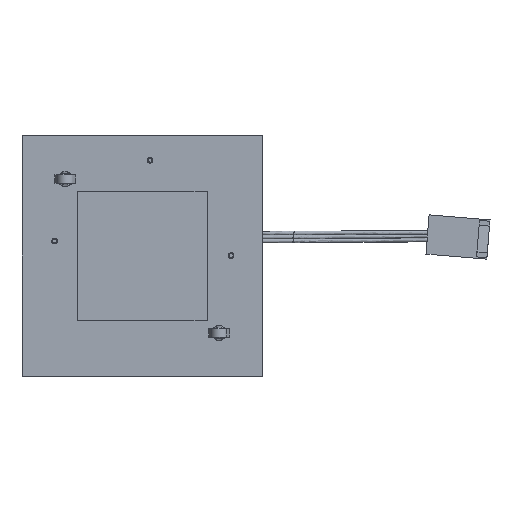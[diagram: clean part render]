
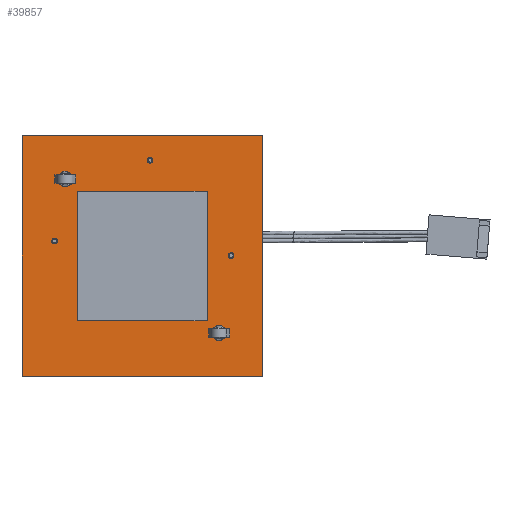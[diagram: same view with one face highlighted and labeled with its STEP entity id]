
A CAD part, front view. The second image highlights one B-rep face of the part: STEP entity #39857.
In plain terms, the highlighted planar face has unit normal (0, -1, 0).
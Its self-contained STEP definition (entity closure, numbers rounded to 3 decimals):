
#1068 = AXIS2_PLACEMENT_3D ( 'NONE', #18120, #22536, #34164 ) ;
#1313 = EDGE_CURVE ( 'NONE', #34698, #24332, #51912, .T. ) ;
#1512 = AXIS2_PLACEMENT_3D ( 'NONE', #43567, #5924, #19203 ) ;
#1811 = AXIS2_PLACEMENT_3D ( 'NONE', #18225, #35088, #5502 ) ;
#1817 = DIRECTION ( 'NONE',  ( 0., 1., 0. ) ) ;
#1867 = VECTOR ( 'NONE', #45388, 1000. ) ;
#2196 = CARTESIAN_POINT ( 'NONE',  ( 25., 0., 25. ) ) ;
#2211 = FACE_BOUND ( 'NONE', #41821, .T. ) ;
#2367 = EDGE_CURVE ( 'NONE', #51442, #11473, #48535, .T. ) ;
#3084 = ORIENTED_EDGE ( 'NONE', *, *, #51517, .T. ) ;
#3251 = VERTEX_POINT ( 'NONE', #7432 ) ;
#4304 = CIRCLE ( 'NONE', #6967, 1.6 ) ;
#4383 = AXIS2_PLACEMENT_3D ( 'NONE', #9590, #8755, #50861 ) ;
#4895 = ORIENTED_EDGE ( 'NONE', *, *, #14249, .T. ) ;
#4954 = DIRECTION ( 'NONE',  ( 0., 1., 0. ) ) ;
#4962 = CARTESIAN_POINT ( 'NONE',  ( -18.236, 0., 3.115 ) ) ;
#5502 = DIRECTION ( 'NONE',  ( 0., 0., -1. ) ) ;
#5567 = FACE_BOUND ( 'NONE', #32090, .T. ) ;
#5835 = DIRECTION ( 'NONE',  ( 1., 0., 0. ) ) ;
#5924 = DIRECTION ( 'NONE',  ( 0., 1., 0. ) ) ;
#6039 = VERTEX_POINT ( 'NONE', #36109 ) ;
#6676 = EDGE_LOOP ( 'NONE', ( #31321, #23872 ) ) ;
#6763 = CARTESIAN_POINT ( 'NONE',  ( 1.639, 0., 19.933 ) ) ;
#6857 = CARTESIAN_POINT ( 'NONE',  ( 16., 0., -16. ) ) ;
#6967 = AXIS2_PLACEMENT_3D ( 'NONE', #35853, #1817, #30621 ) ;
#7347 = CARTESIAN_POINT ( 'NONE',  ( 18.5, 0., 0.094 ) ) ;
#7432 = CARTESIAN_POINT ( 'NONE',  ( 18.5, 0., -0.506 ) ) ;
#8721 = EDGE_CURVE ( 'NONE', #3251, #51970, #38606, .T. ) ;
#8755 = DIRECTION ( 'NONE',  ( 0., 1., 0. ) ) ;
#9590 = CARTESIAN_POINT ( 'NONE',  ( 16., 0., -16. ) ) ;
#9696 = FACE_BOUND ( 'NONE', #51518, .T. ) ;
#11473 = VERTEX_POINT ( 'NONE', #30646 ) ;
#12126 = DIRECTION ( 'NONE',  ( 0., 1., 0. ) ) ;
#12584 = CARTESIAN_POINT ( 'NONE',  ( 25., 0., -25. ) ) ;
#12823 = CARTESIAN_POINT ( 'NONE',  ( 1.639, 0., 20.533 ) ) ;
#14095 = CARTESIAN_POINT ( 'NONE',  ( -16., 0., 14.4 ) ) ;
#14249 = EDGE_CURVE ( 'NONE', #33403, #29986, #21758, .T. ) ;
#14342 = CIRCLE ( 'NONE', #1068, 0.6 ) ;
#14766 = EDGE_CURVE ( 'NONE', #39170, #6039, #21902, .T. ) ;
#14943 = FACE_OUTER_BOUND ( 'NONE', #16463, .T. ) ;
#15432 = CARTESIAN_POINT ( 'NONE',  ( -18.236, 0., 3.115 ) ) ;
#15628 = AXIS2_PLACEMENT_3D ( 'NONE', #7347, #48879, #19544 ) ;
#16328 = DIRECTION ( 'NONE',  ( 0., 0., -1. ) ) ;
#16397 = CARTESIAN_POINT ( 'NONE',  ( -25., 0., 25. ) ) ;
#16463 = EDGE_LOOP ( 'NONE', ( #48413, #45876, #41210, #38397 ) ) ;
#16632 = EDGE_CURVE ( 'NONE', #6039, #47466, #18822, .T. ) ;
#16731 = CIRCLE ( 'NONE', #44987, 0.6 ) ;
#18120 = CARTESIAN_POINT ( 'NONE',  ( 18.5, 0., 0.094 ) ) ;
#18163 = ORIENTED_EDGE ( 'NONE', *, *, #2367, .T. ) ;
#18225 = CARTESIAN_POINT ( 'NONE',  ( 1.639, 0., 19.933 ) ) ;
#18822 = LINE ( 'NONE', #2196, #37699 ) ;
#19203 = DIRECTION ( 'NONE',  ( 0., 0., -1. ) ) ;
#19544 = DIRECTION ( 'NONE',  ( 0., 0., -1. ) ) ;
#19661 = LINE ( 'NONE', #32637, #1867 ) ;
#20800 = DIRECTION ( 'NONE',  ( 0., 0., 1. ) ) ;
#21758 = CIRCLE ( 'NONE', #42026, 0.6 ) ;
#21902 = LINE ( 'NONE', #47342, #44688 ) ;
#22444 = PLANE ( 'NONE',  #34461 ) ;
#22536 = DIRECTION ( 'NONE',  ( 0., 1., 0. ) ) ;
#22917 = EDGE_CURVE ( 'NONE', #29986, #33403, #16731, .T. ) ;
#22967 = FACE_BOUND ( 'NONE', #6676, .T. ) ;
#23024 = CIRCLE ( 'NONE', #1811, 0.6 ) ;
#23285 = EDGE_CURVE ( 'NONE', #24332, #34698, #4304, .T. ) ;
#23872 = ORIENTED_EDGE ( 'NONE', *, *, #23285, .T. ) ;
#24185 = EDGE_LOOP ( 'NONE', ( #4895, #46210 ) ) ;
#24332 = VERTEX_POINT ( 'NONE', #53854 ) ;
#24591 = CARTESIAN_POINT ( 'NONE',  ( -25., 0., 25. ) ) ;
#24644 = ORIENTED_EDGE ( 'NONE', *, *, #47219, .T. ) ;
#25796 = CIRCLE ( 'NONE', #46101, 0.6 ) ;
#27875 = CARTESIAN_POINT ( 'NONE',  ( 18.5, 0., 0.694 ) ) ;
#28239 = CIRCLE ( 'NONE', #4383, 1.6 ) ;
#28817 = ORIENTED_EDGE ( 'NONE', *, *, #44734, .T. ) ;
#28915 = CARTESIAN_POINT ( 'NONE',  ( -18.236, 0., 3.715 ) ) ;
#29236 = DIRECTION ( 'NONE',  ( 0., 0., -1. ) ) ;
#29986 = VERTEX_POINT ( 'NONE', #28915 ) ;
#30621 = DIRECTION ( 'NONE',  ( 0., 0., -1. ) ) ;
#30646 = CARTESIAN_POINT ( 'NONE',  ( 16., 0., -14.4 ) ) ;
#30996 = VECTOR ( 'NONE', #20800, 1000. ) ;
#31321 = ORIENTED_EDGE ( 'NONE', *, *, #1313, .T. ) ;
#32090 = EDGE_LOOP ( 'NONE', ( #24644, #3084 ) ) ;
#32307 = DIRECTION ( 'NONE',  ( 0., 1., 0. ) ) ;
#32637 = CARTESIAN_POINT ( 'NONE',  ( -25., 0., -25. ) ) ;
#32773 = EDGE_CURVE ( 'NONE', #11473, #51442, #28239, .T. ) ;
#33403 = VERTEX_POINT ( 'NONE', #50460 ) ;
#33525 = ORIENTED_EDGE ( 'NONE', *, *, #8721, .T. ) ;
#34164 = DIRECTION ( 'NONE',  ( 0., 0., -1. ) ) ;
#34461 = AXIS2_PLACEMENT_3D ( 'NONE', #48980, #36249, #16328 ) ;
#34698 = VERTEX_POINT ( 'NONE', #14095 ) ;
#34870 = DIRECTION ( 'NONE',  ( 0., 0., -1. ) ) ;
#35088 = DIRECTION ( 'NONE',  ( 0., 1., 0. ) ) ;
#35853 = CARTESIAN_POINT ( 'NONE',  ( -16., 0., 16. ) ) ;
#36109 = CARTESIAN_POINT ( 'NONE',  ( 25., 0., 25. ) ) ;
#36212 = DIRECTION ( 'NONE',  ( 0., 0., -1. ) ) ;
#36249 = DIRECTION ( 'NONE',  ( 0., -1., 0. ) ) ;
#37045 = AXIS2_PLACEMENT_3D ( 'NONE', #6857, #12126, #36212 ) ;
#37548 = CARTESIAN_POINT ( 'NONE',  ( -25., 0., -25. ) ) ;
#37699 = VECTOR ( 'NONE', #34870, 1000. ) ;
#37876 = DIRECTION ( 'NONE',  ( 0., 1., 0. ) ) ;
#38156 = DIRECTION ( 'NONE',  ( 0., 0., -1. ) ) ;
#38234 = VERTEX_POINT ( 'NONE', #12823 ) ;
#38397 = ORIENTED_EDGE ( 'NONE', *, *, #41277, .F. ) ;
#38606 = CIRCLE ( 'NONE', #15628, 0.6 ) ;
#38690 = DIRECTION ( 'NONE',  ( 0., 0., -1. ) ) ;
#39170 = VERTEX_POINT ( 'NONE', #24591 ) ;
#39857 = ADVANCED_FACE ( 'NONE', ( #22967, #9696, #5567, #44280, #2211, #14943 ), #22444, .T. ) ;
#40481 = VERTEX_POINT ( 'NONE', #46936 ) ;
#40930 = ORIENTED_EDGE ( 'NONE', *, *, #32773, .T. ) ;
#41133 = EDGE_CURVE ( 'NONE', #41766, #39170, #45451, .T. ) ;
#41210 = ORIENTED_EDGE ( 'NONE', *, *, #41133, .F. ) ;
#41277 = EDGE_CURVE ( 'NONE', #47466, #41766, #19661, .T. ) ;
#41766 = VERTEX_POINT ( 'NONE', #37548 ) ;
#41821 = EDGE_LOOP ( 'NONE', ( #33525, #28817 ) ) ;
#42026 = AXIS2_PLACEMENT_3D ( 'NONE', #15432, #32307, #29236 ) ;
#43567 = CARTESIAN_POINT ( 'NONE',  ( -16., 0., 16. ) ) ;
#44280 = FACE_BOUND ( 'NONE', #24185, .T. ) ;
#44688 = VECTOR ( 'NONE', #5835, 1000. ) ;
#44734 = EDGE_CURVE ( 'NONE', #51970, #3251, #14342, .T. ) ;
#44987 = AXIS2_PLACEMENT_3D ( 'NONE', #4962, #37876, #38156 ) ;
#45388 = DIRECTION ( 'NONE',  ( -1., 0., 0. ) ) ;
#45451 = LINE ( 'NONE', #16397, #30996 ) ;
#45876 = ORIENTED_EDGE ( 'NONE', *, *, #14766, .F. ) ;
#46101 = AXIS2_PLACEMENT_3D ( 'NONE', #6763, #4954, #38690 ) ;
#46210 = ORIENTED_EDGE ( 'NONE', *, *, #22917, .T. ) ;
#46936 = CARTESIAN_POINT ( 'NONE',  ( 1.639, 0., 19.333 ) ) ;
#47219 = EDGE_CURVE ( 'NONE', #40481, #38234, #25796, .T. ) ;
#47342 = CARTESIAN_POINT ( 'NONE',  ( -25., 0., 25. ) ) ;
#47466 = VERTEX_POINT ( 'NONE', #12584 ) ;
#48089 = CARTESIAN_POINT ( 'NONE',  ( 16., 0., -17.6 ) ) ;
#48413 = ORIENTED_EDGE ( 'NONE', *, *, #16632, .F. ) ;
#48535 = CIRCLE ( 'NONE', #37045, 1.6 ) ;
#48879 = DIRECTION ( 'NONE',  ( 0., 1., 0. ) ) ;
#48980 = CARTESIAN_POINT ( 'NONE',  ( 0., 0., 0. ) ) ;
#50460 = CARTESIAN_POINT ( 'NONE',  ( -18.236, 0., 2.515 ) ) ;
#50861 = DIRECTION ( 'NONE',  ( 0., 0., -1. ) ) ;
#51442 = VERTEX_POINT ( 'NONE', #48089 ) ;
#51517 = EDGE_CURVE ( 'NONE', #38234, #40481, #23024, .T. ) ;
#51518 = EDGE_LOOP ( 'NONE', ( #18163, #40930 ) ) ;
#51912 = CIRCLE ( 'NONE', #1512, 1.6 ) ;
#51970 = VERTEX_POINT ( 'NONE', #27875 ) ;
#53854 = CARTESIAN_POINT ( 'NONE',  ( -16., 0., 17.6 ) ) ;
